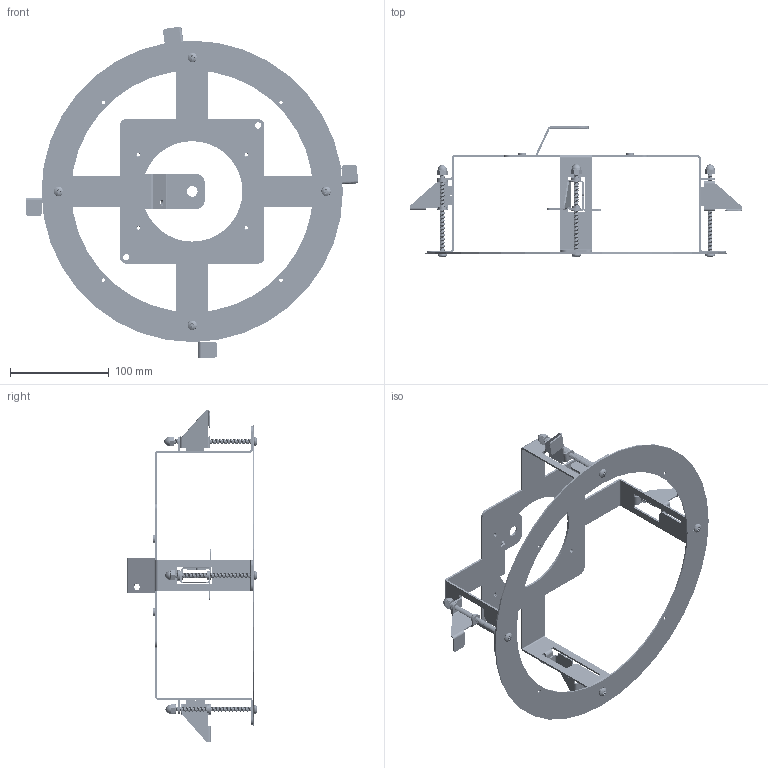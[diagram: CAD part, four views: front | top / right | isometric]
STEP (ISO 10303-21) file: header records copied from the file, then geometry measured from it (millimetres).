
FILE_DESCRIPTION (( 'STEP AP203' ), '1' );
FILE_NAME ('Panasonic PRCM8.STEP', '2020-06-23T19:24:07', ( '' ), ( '' ), 'SwSTEP 2.0', 'SolidWorks 2019', '' );
FILE_SCHEMA (( 'CONFIG_CONTROL_DESIGN' ));
Length unit declared in the file: inch
Products named in the file (6): 217A001 Camera Bracket; Screw, Pan, #10-32 x 3.25, 91772A529_91772A529; 91855A460_18-8 STAINLESS STEEL CAP NUT_91855A460; 217A003 Securing Bracket; 217A002 Bottom Bracket; Panasonic PRCM8
Assembly tree (14 placements, depth 2):
  Panasonic PRCM8
    217A001 Camera Bracket
    217A002 Bottom Bracket
    217A003 Securing Bracket  x4
    Screw, Pan, #10-32 x 3.25, 91772A529_91772A529  x4
    91855A460_18-8 STAINLESS STEEL CAP NUT_91855A460  x4
Bounding box: 335.76 x 132.25 x 334.86 mm (x, y, z)
Volume: 127333.6 mm3; surface area: 156047.7 mm2
Topology: 22 solids, 22 shells, 3436 faces, 9672 edges, 6320 vertices
Faces by surface type: cylinder 2505, plane 707, cone 172, torus 24, bspline 20, sphere 8
Entity records: 48068 total; most frequent: CARTESIAN_POINT 19386, ORIENTED_EDGE 6610, DIRECTION 5071, EDGE_CURVE 3305, VERTEX_POINT 2138, AXIS2_PLACEMENT_3D 1696, LINE 1679, VECTOR 1679
